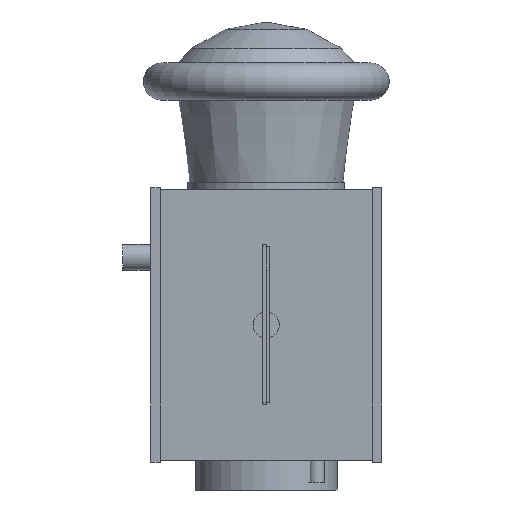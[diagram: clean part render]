
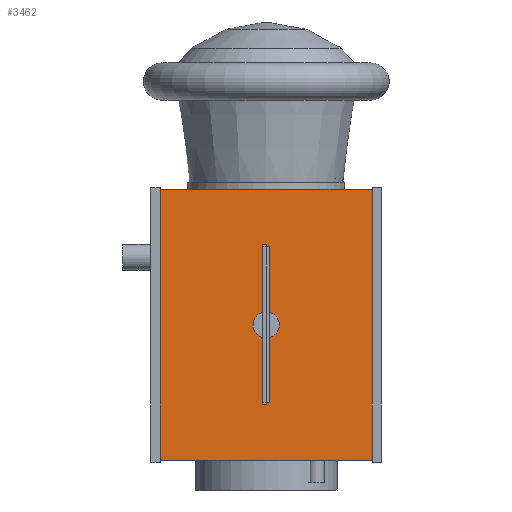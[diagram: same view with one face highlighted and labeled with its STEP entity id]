
A CAD part, left-side view. The second image highlights one B-rep face of the part: STEP entity #3462.
In plain terms, the highlighted planar face has unit normal (-1, 0, 0).
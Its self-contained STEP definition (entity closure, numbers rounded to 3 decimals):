
#3462 = ADVANCED_FACE('',(#3463),#3477,.F.);
#3463 = FACE_BOUND('',#3464,.F.);
#3464 = EDGE_LOOP('',(#3465,#3500,#3528,#3556));
#3465 = ORIENTED_EDGE('',*,*,#3466,.F.);
#3466 = EDGE_CURVE('',#3467,#3469,#3471,.T.);
#3467 = VERTEX_POINT('',#3468);
#3468 = CARTESIAN_POINT('',(-0.296,-0.296,-0.728));
#3469 = VERTEX_POINT('',#3470);
#3470 = CARTESIAN_POINT('',(-0.296,-0.296,0.));
#3471 = SURFACE_CURVE('',#3472,(#3476,#3488),.PCURVE_S1.);
#3472 = LINE('',#3473,#3474);
#3473 = CARTESIAN_POINT('',(-0.296,-0.296,-0.728));
#3474 = VECTOR('',#3475,1.);
#3475 = DIRECTION('',(0.,0.,1.));
#3476 = PCURVE('',#3477,#3482);
#3477 = PLANE('',#3478);
#3478 = AXIS2_PLACEMENT_3D('',#3479,#3480,#3481);
#3479 = CARTESIAN_POINT('',(-0.296,-0.296,-0.728));
#3480 = DIRECTION('',(1.,0.,0.));
#3481 = DIRECTION('',(0.,0.,1.));
#3482 = DEFINITIONAL_REPRESENTATION('',(#3483),#3487);
#3483 = LINE('',#3484,#3485);
#3484 = CARTESIAN_POINT('',(0.,0.));
#3485 = VECTOR('',#3486,1.);
#3486 = DIRECTION('',(1.,0.));
#3487 = ( GEOMETRIC_REPRESENTATION_CONTEXT(2) 
PARAMETRIC_REPRESENTATION_CONTEXT() REPRESENTATION_CONTEXT('2D SPACE',''
  ) );
#3488 = PCURVE('',#3489,#3494);
#3489 = PLANE('',#3490);
#3490 = AXIS2_PLACEMENT_3D('',#3491,#3492,#3493);
#3491 = CARTESIAN_POINT('',(-0.296,-0.296,-0.728));
#3492 = DIRECTION('',(0.,1.,0.));
#3493 = DIRECTION('',(0.,0.,1.));
#3494 = DEFINITIONAL_REPRESENTATION('',(#3495),#3499);
#3495 = LINE('',#3496,#3497);
#3496 = CARTESIAN_POINT('',(0.,0.));
#3497 = VECTOR('',#3498,1.);
#3498 = DIRECTION('',(1.,0.));
#3499 = ( GEOMETRIC_REPRESENTATION_CONTEXT(2) 
PARAMETRIC_REPRESENTATION_CONTEXT() REPRESENTATION_CONTEXT('2D SPACE',''
  ) );
#3500 = ORIENTED_EDGE('',*,*,#3501,.T.);
#3501 = EDGE_CURVE('',#3467,#3502,#3504,.T.);
#3502 = VERTEX_POINT('',#3503);
#3503 = CARTESIAN_POINT('',(-0.296,0.296,-0.728));
#3504 = SURFACE_CURVE('',#3505,(#3509,#3516),.PCURVE_S1.);
#3505 = LINE('',#3506,#3507);
#3506 = CARTESIAN_POINT('',(-0.296,-0.296,-0.728));
#3507 = VECTOR('',#3508,1.);
#3508 = DIRECTION('',(0.,1.,0.));
#3509 = PCURVE('',#3477,#3510);
#3510 = DEFINITIONAL_REPRESENTATION('',(#3511),#3515);
#3511 = LINE('',#3512,#3513);
#3512 = CARTESIAN_POINT('',(0.,0.));
#3513 = VECTOR('',#3514,1.);
#3514 = DIRECTION('',(0.,-1.));
#3515 = ( GEOMETRIC_REPRESENTATION_CONTEXT(2) 
PARAMETRIC_REPRESENTATION_CONTEXT() REPRESENTATION_CONTEXT('2D SPACE',''
  ) );
#3516 = PCURVE('',#3517,#3522);
#3517 = PLANE('',#3518);
#3518 = AXIS2_PLACEMENT_3D('',#3519,#3520,#3521);
#3519 = CARTESIAN_POINT('',(-0.296,-0.296,-0.728));
#3520 = DIRECTION('',(0.,0.,1.));
#3521 = DIRECTION('',(1.,0.,0.));
#3522 = DEFINITIONAL_REPRESENTATION('',(#3523),#3527);
#3523 = LINE('',#3524,#3525);
#3524 = CARTESIAN_POINT('',(0.,0.));
#3525 = VECTOR('',#3526,1.);
#3526 = DIRECTION('',(0.,1.));
#3527 = ( GEOMETRIC_REPRESENTATION_CONTEXT(2) 
PARAMETRIC_REPRESENTATION_CONTEXT() REPRESENTATION_CONTEXT('2D SPACE',''
  ) );
#3528 = ORIENTED_EDGE('',*,*,#3529,.T.);
#3529 = EDGE_CURVE('',#3502,#3530,#3532,.T.);
#3530 = VERTEX_POINT('',#3531);
#3531 = CARTESIAN_POINT('',(-0.296,0.296,0.));
#3532 = SURFACE_CURVE('',#3533,(#3537,#3544),.PCURVE_S1.);
#3533 = LINE('',#3534,#3535);
#3534 = CARTESIAN_POINT('',(-0.296,0.296,-0.728));
#3535 = VECTOR('',#3536,1.);
#3536 = DIRECTION('',(0.,0.,1.));
#3537 = PCURVE('',#3477,#3538);
#3538 = DEFINITIONAL_REPRESENTATION('',(#3539),#3543);
#3539 = LINE('',#3540,#3541);
#3540 = CARTESIAN_POINT('',(0.,-0.591));
#3541 = VECTOR('',#3542,1.);
#3542 = DIRECTION('',(1.,0.));
#3543 = ( GEOMETRIC_REPRESENTATION_CONTEXT(2) 
PARAMETRIC_REPRESENTATION_CONTEXT() REPRESENTATION_CONTEXT('2D SPACE',''
  ) );
#3544 = PCURVE('',#3545,#3550);
#3545 = PLANE('',#3546);
#3546 = AXIS2_PLACEMENT_3D('',#3547,#3548,#3549);
#3547 = CARTESIAN_POINT('',(-0.296,0.296,-0.728));
#3548 = DIRECTION('',(0.,1.,0.));
#3549 = DIRECTION('',(0.,0.,1.));
#3550 = DEFINITIONAL_REPRESENTATION('',(#3551),#3555);
#3551 = LINE('',#3552,#3553);
#3552 = CARTESIAN_POINT('',(0.,0.));
#3553 = VECTOR('',#3554,1.);
#3554 = DIRECTION('',(1.,0.));
#3555 = ( GEOMETRIC_REPRESENTATION_CONTEXT(2) 
PARAMETRIC_REPRESENTATION_CONTEXT() REPRESENTATION_CONTEXT('2D SPACE',''
  ) );
#3556 = ORIENTED_EDGE('',*,*,#3557,.F.);
#3557 = EDGE_CURVE('',#3469,#3530,#3558,.T.);
#3558 = SURFACE_CURVE('',#3559,(#3563,#3570),.PCURVE_S1.);
#3559 = LINE('',#3560,#3561);
#3560 = CARTESIAN_POINT('',(-0.296,-0.296,0.));
#3561 = VECTOR('',#3562,1.);
#3562 = DIRECTION('',(0.,1.,0.));
#3563 = PCURVE('',#3477,#3564);
#3564 = DEFINITIONAL_REPRESENTATION('',(#3565),#3569);
#3565 = LINE('',#3566,#3567);
#3566 = CARTESIAN_POINT('',(0.728,0.));
#3567 = VECTOR('',#3568,1.);
#3568 = DIRECTION('',(0.,-1.));
#3569 = ( GEOMETRIC_REPRESENTATION_CONTEXT(2) 
PARAMETRIC_REPRESENTATION_CONTEXT() REPRESENTATION_CONTEXT('2D SPACE',''
  ) );
#3570 = PCURVE('',#3571,#3576);
#3571 = PLANE('',#3572);
#3572 = AXIS2_PLACEMENT_3D('',#3573,#3574,#3575);
#3573 = CARTESIAN_POINT('',(-0.296,-0.296,0.));
#3574 = DIRECTION('',(0.,0.,1.));
#3575 = DIRECTION('',(1.,0.,0.));
#3576 = DEFINITIONAL_REPRESENTATION('',(#3577),#3581);
#3577 = LINE('',#3578,#3579);
#3578 = CARTESIAN_POINT('',(0.,0.));
#3579 = VECTOR('',#3580,1.);
#3580 = DIRECTION('',(0.,1.));
#3581 = ( GEOMETRIC_REPRESENTATION_CONTEXT(2) 
PARAMETRIC_REPRESENTATION_CONTEXT() REPRESENTATION_CONTEXT('2D SPACE',''
  ) );
